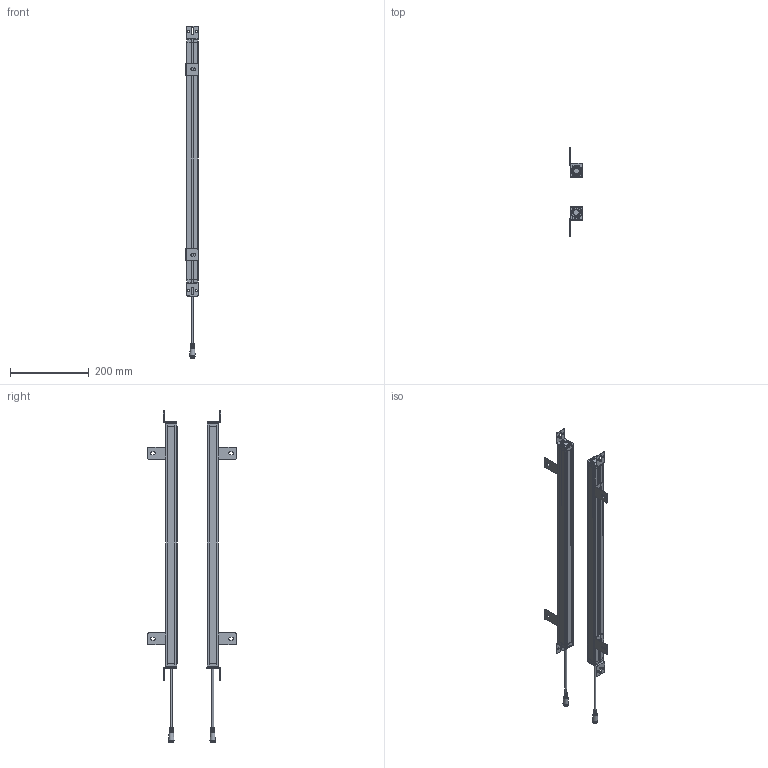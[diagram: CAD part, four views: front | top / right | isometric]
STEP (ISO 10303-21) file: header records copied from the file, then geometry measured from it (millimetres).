
FILE_DESCRIPTION(/* description */ (''),/* implementation_level */ '2;1');
FILE_NAME(/* name */ '3020（29x30）.stp',/* time_stamp */ '2023-04-28T14:42:00+08:00',/* author */ (''),/* organization */ (''),/* preprocessor_version */ 'ST-DEVELOPER v16.7',/* originating_system */ 'SIEMENS PLM Software NX 12.0',/* authorisation */ '');
FILE_SCHEMA (('AUTOMOTIVE_DESIGN { 1 0 10303 214 3 1 1 1 }'));
Products named in the file (1): 3020（29x30）_stp
Bounding box: 32.03 x 223.99 x 841 mm (x, y, z)
Volume: 408372.9 mm3; surface area: 423617.7 mm2
Topology: 34 solids, 34 shells, 1610 faces, 4267 edges, 2771 vertices
Faces by surface type: plane 750, cylinder 648, bspline 88, sphere 36, cone 36, torus 32, extrusion 20
Full cylindrical faces by diameter (mm): 1.533 x6, 4.4 x4, 9 x2, 12.5 x2
Entity records: 56427 total; most frequent: CARTESIAN_POINT 16064, DIRECTION 8330, ORIENTED_EDGE 8324, EDGE_CURVE 4162, AXIS2_PLACEMENT_3D 2918, VERTEX_POINT 2696, VECTOR 2494, LINE 2474
